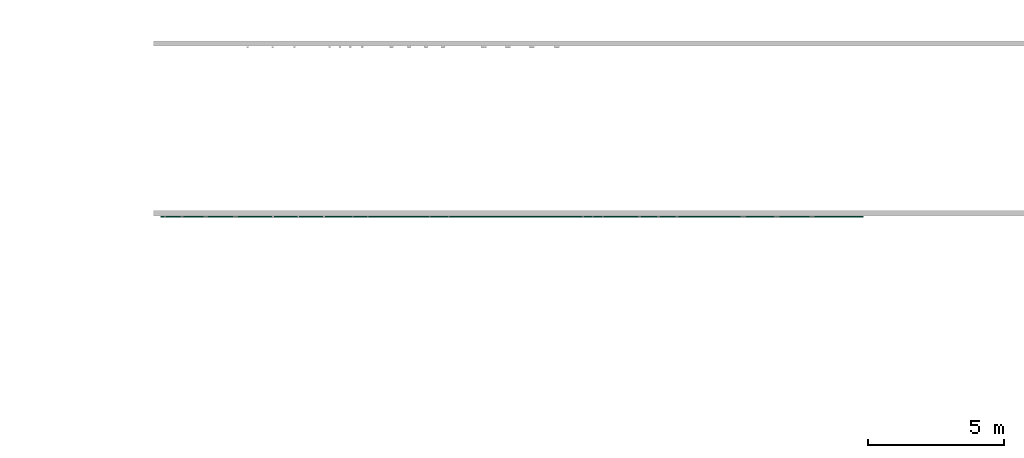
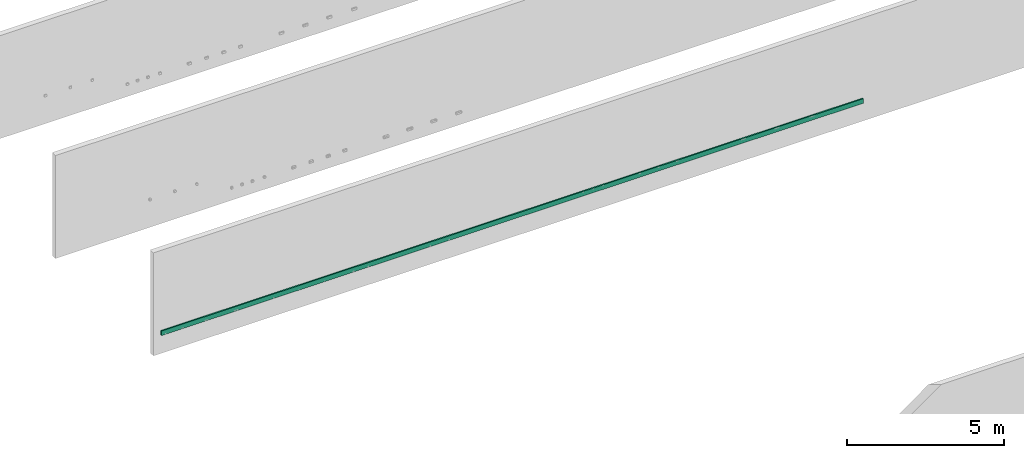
# One storey, part 14 of 197: 1 flow segment.
"""IFC2X3 building model written with IfcOpenShell, lengths in metres."""

from ifc_helpers import new_model, entity, si_unit, converted_unit, direction, frame, frame_2d, origin, place, context, subcontext, project, spatial, rectangle, extrude, type_object, element, save


model = new_model("IFC2X3")

# Units and contexts
model_context = context("Model", 3, precision=1e-05, world=origin(), true_north=direction((6.123031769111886e-17, 1.0)))
body_context = subcontext(model_context, "Body", "Model", "MODEL_VIEW")
ifc_project = project(units=[si_unit("LENGTHUNIT", "METRE"), converted_unit("PLANEANGLEUNIT", "DEGREE", entity("IfcPlaneAngleMeasure", 0.017453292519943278), si_unit("PLANEANGLEUNIT", "RADIAN"), dimensions=[0, 0, 0, 0, 0, 0, 0]), si_unit("AREAUNIT", "SQUARE_METRE")], contexts=[model_context])

# Site, building, storey
site_placement = place(None, origin())
site = spatial("IfcSite", under=ifc_project, at=site_placement, Name="Default", CompositionType="ELEMENT")
building_placement = place(site_placement, origin())
building = spatial("IfcBuilding", under=site, at=building_placement, CompositionType="ELEMENT")
storey_placement = place(building_placement, origin())
storey = spatial("IfcBuildingStorey", under=building, at=storey_placement, Name="Niveau 0", CompositionType="ELEMENT", Elevation=0.0)

# Flow segment
cable_carrier_segment_type = type_object("IfcCableCarrierSegmentType", Name="Chemin de câbles avec raccords:GOULOTTE", PredefinedType="CABLETRAYSEGMENT")
flow_segment_placement = place(storey_placement, origin())
element("IfcFlowSegment", 1, at=flow_segment_placement, inside=storey, type_object=cable_carrier_segment_type, Name="Chemin de câbles avec raccords:GOULOTTE", ObjectType="Chemin de câbles avec raccords:GOULOTTE", context=body_context, shape_type="SweptSolid", body=[
    extrude(rectangle(XDim=25.799000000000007, YDim=0.050000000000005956, at=frame_2d((-3.4638958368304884e-14, 0.0), x_axis=(1.0, 0.0))), frame((-405.9315499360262, 76.48696719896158, 0.7205377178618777)), (0.0, 0.0, 1.0), 0.17999999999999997),
])

save(model, "model.ifc")
